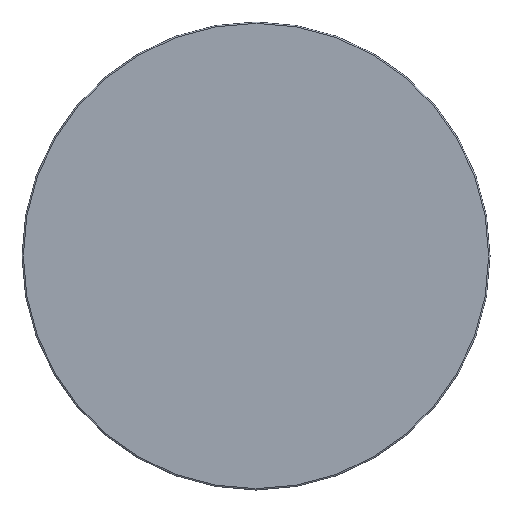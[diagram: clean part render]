
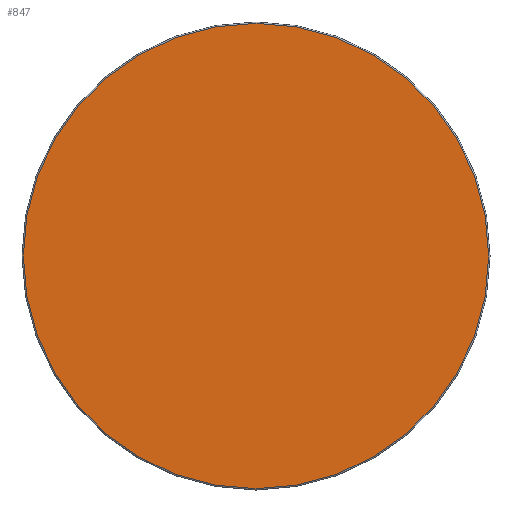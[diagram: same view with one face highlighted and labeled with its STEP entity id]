
A CAD part, left-side view. The second image highlights one B-rep face of the part: STEP entity #847.
In plain terms, the highlighted planar face has unit normal (-1, 0, 0).
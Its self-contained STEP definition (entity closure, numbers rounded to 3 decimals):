
#824=CARTESIAN_POINT('',(0.0,174.0,0.0));
#825=VERTEX_POINT('',#824);
#826=CARTESIAN_POINT('',(0.0,0.0,0.0));
#827=DIRECTION('',(1.0,0.0,0.0));
#828=DIRECTION('',(0.0,-1.0,0.0));
#829=AXIS2_PLACEMENT_3D('',#826,#827,#828);
#830=CIRCLE('',#829,174.0);
#831=EDGE_CURVE('',#825,#825,#830,.T.);
#839=CARTESIAN_POINT('',(0.0,142.0,0.));
#840=DIRECTION('',(-1.0,0.0,0.0));
#841=DIRECTION('',(0.0,0.0,1.0));
#842=AXIS2_PLACEMENT_3D('',#839,#840,#841);
#843=PLANE('',#842);
#844=ORIENTED_EDGE('',*,*,#831,.F.);
#845=EDGE_LOOP('',(#844));
#846=FACE_OUTER_BOUND('',#845,.T.);
#847=ADVANCED_FACE('',(#846),#843,.T.);
